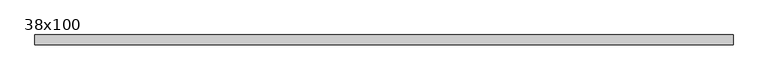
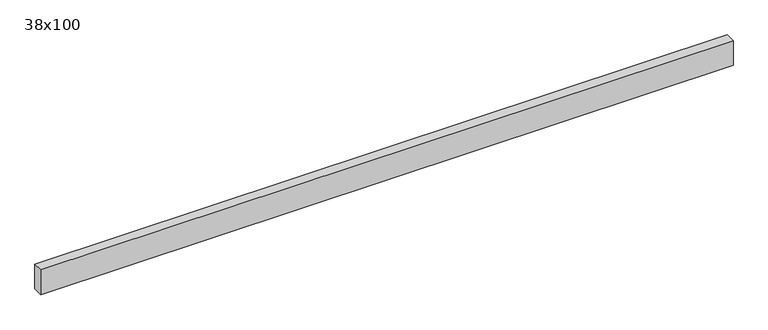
"""IFC4 building model written with IfcOpenShell, lengths in millimetres: beam geometry, Poutre - Bois de construction de dimensions courantes : 38x100."""

from ifc_helpers import new_model, si_unit, frame, origin, place, context, project, spatial, polyline, outline, extrude, source, transform, mapped, element, save


def beam_38x100_0a09c65e(model_context):
    return source(origin(), model_context, "Body", "SweptSolid", [
        extrude(outline(polyline([(1244.5, 19.05), (1244.5, -19.05), (-1404.5, -19.05), (-1404.5, 19.05), (1244.5, 19.05)])), frame((0.0, 0.0, -50.0), z_axis=(0.0, 0.0, 1.0), x_axis=(1.0, 0.0, 0.0)), (0.0, 0.0, 1.0), 100.0),
    ])


if __name__ == "__main__":
    model = new_model("IFC4")
    model_context = context("Model", 3, world=origin())
    ifc_project = project(units=[si_unit("LENGTHUNIT", "METRE", prefix="MILLI")], contexts=[model_context])
    site = spatial("IfcSite", under=ifc_project)
    building = spatial("IfcBuilding", under=site)
    placement = place(None, origin())
    beam_38x100_shape = beam_38x100_0a09c65e(model_context)
    element("IfcBeam", 1, ObjectType="Poutre - Bois de construction de dimensions courantes : 38x100", at=placement, inside=building, context=model_context, shape_type="MappedRepresentation", body=[
        mapped(beam_38x100_shape, transform((0.0, 0.0, 0.0), x_axis=(1.0, 0.0, 0.0), y_axis=(0.0, 1.0, 0.0), z_axis=(0.0, 0.0, 1.0))),
    ])
    save(model, "model.ifc")
